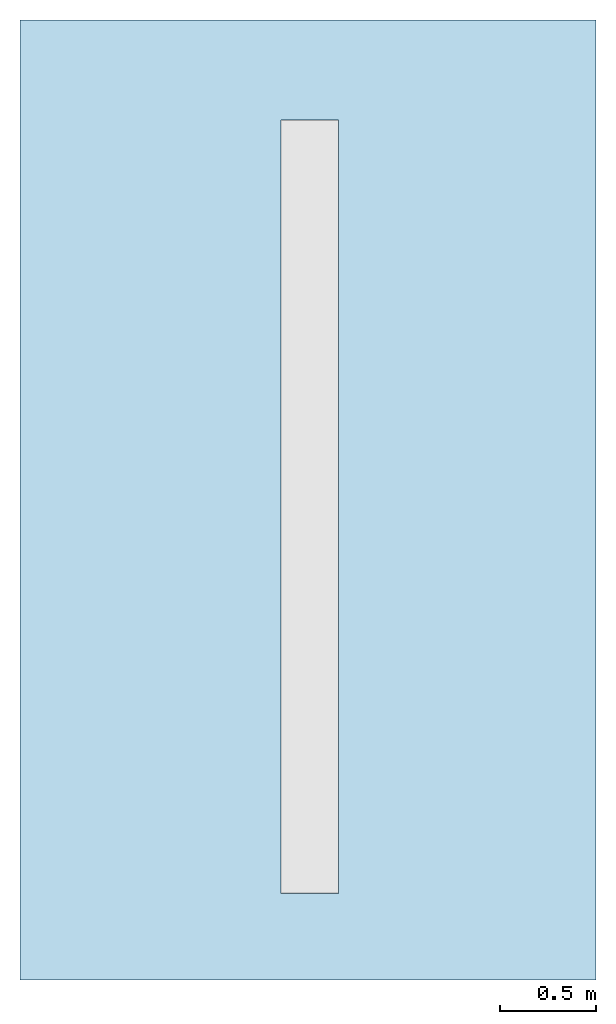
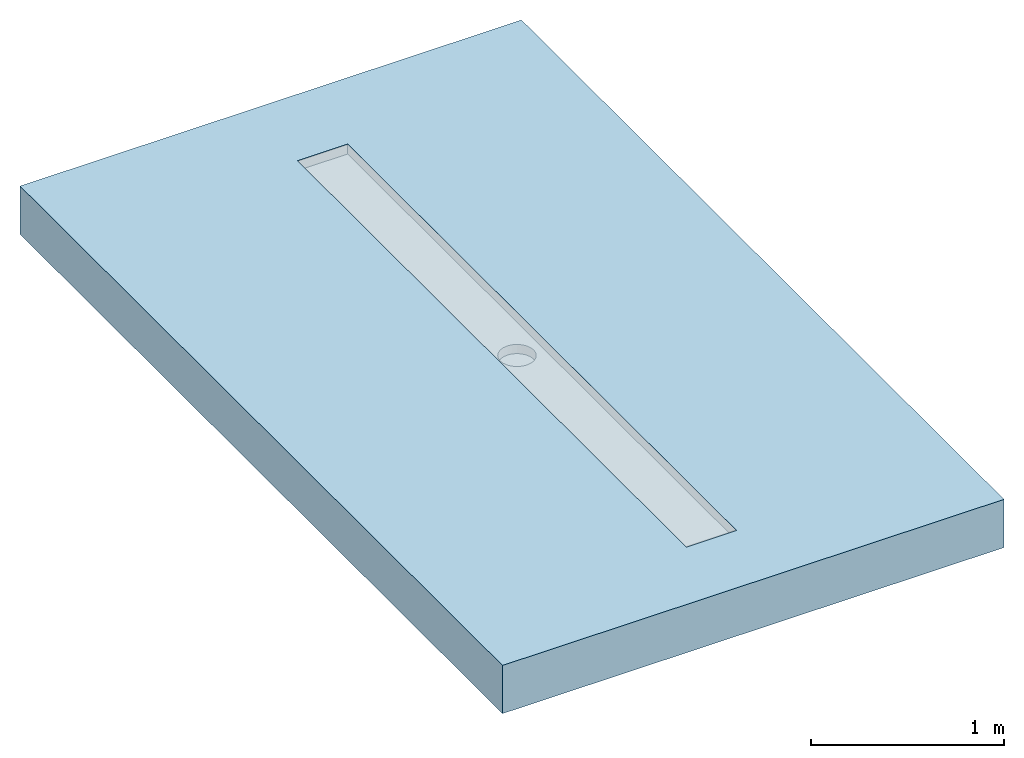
# One storey, incomplete: 1 slab, 1 opening.
"""IFC2X3 building model written with IfcOpenShell, lengths in millimetres."""

import ifcopenshell
import ifcopenshell.guid

model = None  # the IFC model being written
_history = None  # IfcOwnerHistory: only IFC2X3 demands one
_inside = {}  # id of a spatial element -> (the spatial element, [elements in it])
_under = {}  # id of a project, library or spatial element -> (it, [spatial elements below it])
_declared = {}  # id of a project -> (the project, [libraries it declares])
_typed = {}  # id of a type object -> (the type object, [elements of that type])
_made_of = {}  # id of a material, layer set ... -> (it, [elements and type objects made of it])


def new_model(schema):
    """Start an empty IFC model of exactly this schema.

    Asked for "IFC4X3", IfcOpenShell would pick the latest addendum, in which some entities
    have other attributes; the version numbers below select the first issue.
    IFC2X3 requires an IfcOwnerHistory on every rooted entity: one is made here for all.
    """
    global model, _history
    if schema == "IFC4X3":
        model = ifcopenshell.file(schema_version=(4, 3, 0, 0))
    else:
        model = ifcopenshell.file(schema=schema)
    _inside.clear()
    _under.clear()
    _declared.clear()
    _typed.clear()
    _made_of.clear()
    _history = None
    if model.schema == "IFC2X3":
        org = make("IfcOrganization", Name="unknown")
        user = make(
            "IfcPersonAndOrganization",
            ThePerson=make("IfcPerson", FamilyName="unknown"),
            TheOrganization=org,
        )
        app = make(
            "IfcApplication",
            ApplicationDeveloper=org,
            Version="unknown",
            ApplicationFullName="unknown",
            ApplicationIdentifier="unknown",
        )
        _history = make(
            "IfcOwnerHistory",
            OwningUser=user,
            OwningApplication=app,
            ChangeAction="ADDED",
            CreationDate=0,
        )
    return model


def make(cls, **values):
    """One entity of the class cls with the attributes given. An attribute that is None is left unset."""
    return model.create_entity(
        cls, **{name: value for name, value in values.items() if value is not None}
    )


def entity(cls, *values):
    """Any entity or typed value of the class cls, its attributes in the order of the schema. None: left unset."""
    e = model.create_entity(cls)
    for i, value in enumerate(values):
        if value is not None:
            e[i] = value
    return e


def rooted(cls, **values):
    """An entity with a GlobalId (a new one), such as an element, a storey or a relation."""
    return make(cls, GlobalId=ifcopenshell.guid.new(), OwnerHistory=_history, **values)


def si_unit(unit_type, name, prefix=None):
    """IfcSIUnit, for example si_unit("LENGTHUNIT", "METRE", prefix="MILLI")."""
    return make("IfcSIUnit", UnitType=unit_type, Prefix=prefix, Name=name)


def converted_unit(unit_type, name, factor, base, dimensions=None, offset=None):
    """IfcConversionBasedUnit, such as the inch: factor (a typed value) times the base unit."""
    return make(
        "IfcConversionBasedUnit"
        if offset is None
        else "IfcConversionBasedUnitWithOffset",
        ConversionOffset=offset,
        Dimensions=None
        if dimensions is None
        else entity("IfcDimensionalExponents", *dimensions),
        UnitType=unit_type,
        Name=name,
        ConversionFactor=make(
            "IfcMeasureWithUnit", ValueComponent=factor, UnitComponent=base
        ),
    )


def derived_unit(unit_type, elements):
    """IfcDerivedUnit: a product of units, each with its exponent."""
    return make(
        "IfcDerivedUnit",
        Elements=[
            make("IfcDerivedUnitElement", Unit=unit, Exponent=power)
            for unit, power in elements
        ],
        UnitType=unit_type,
    )


def assignment(units):
    """IfcUnitAssignment: the units of a project."""
    return None if units is None else make("IfcUnitAssignment", Units=units)


def point(xyz):
    """IfcCartesianPoint."""
    return None if xyz is None else make("IfcCartesianPoint", Coordinates=xyz)


def direction(xyz):
    """IfcDirection."""
    return None if xyz is None else make("IfcDirection", DirectionRatios=xyz)


def frame(location, z_axis=None, x_axis=None):
    """IfcAxis2Placement3D, a coordinate frame: its origin and axes. An axis left out is left unset."""
    return make(
        "IfcAxis2Placement3D",
        Location=point(location),
        Axis=direction(z_axis),
        RefDirection=direction(x_axis),
    )


def frame_2d(location, x_axis=None):
    """IfcAxis2Placement2D, a coordinate frame in the plane: its origin and x axis."""
    return make(
        "IfcAxis2Placement2D", Location=point(location), RefDirection=direction(x_axis)
    )


def origin():
    """The frame at (0, 0, 0) with its axes left unset."""
    return frame((0.0, 0.0, 0.0))


def place(relative_to, where):
    """IfcLocalPlacement: puts the frame where relative to a parent placement (None: the world)."""
    return make(
        "IfcLocalPlacement", PlacementRelTo=relative_to, RelativePlacement=where
    )


def context(
    kind, dimensions, precision=None, world=None, true_north=None, identifier=None
):
    """IfcGeometricRepresentationContext, for example the 3D "Model" context."""
    return make(
        "IfcGeometricRepresentationContext",
        ContextIdentifier=identifier,
        ContextType=kind,
        CoordinateSpaceDimension=dimensions,
        Precision=precision,
        WorldCoordinateSystem=world,
        TrueNorth=true_north,
    )


def subcontext(parent, identifier, kind, view, scale=None):
    """IfcGeometricRepresentationSubContext, for example "Body" below "Model"."""
    return make(
        "IfcGeometricRepresentationSubContext",
        ContextIdentifier=identifier,
        ContextType=kind,
        ParentContext=parent,
        TargetScale=scale,
        TargetView=view,
    )


def project(units=None, contexts=None):
    """IfcProject with its units and contexts."""
    return rooted(
        "IfcProject",
        Name="project",
        RepresentationContexts=contexts,
        UnitsInContext=assignment(units),
    )


def spatial(cls, under=None, at=None, **own):
    """A site, building, storey or space (cls), placed at a placement, below another one or the project."""
    s = rooted(cls, ObjectPlacement=at, **own)
    if under is not None:
        _under.setdefault(under.id(), (under, []))[1].append(s)
    return s


def profile(cls, at=None, kind="AREA", **sizes):
    """A parametric profile (cls). Its sizes go by their IFC names, for example OverallWidth=200.0."""
    return make(cls, ProfileType=kind, Position=at, **sizes)


def rectangle(**sizes):
    """IfcRectangleProfileDef."""
    return profile("IfcRectangleProfileDef", **sizes)


def extrude(swept, where, along, depth):
    """IfcExtrudedAreaSolid: the profile swept, set in the frame where, extruded along a direction by depth."""
    return make(
        "IfcExtrudedAreaSolid",
        SweptArea=swept,
        Position=where,
        ExtrudedDirection=direction(along),
        Depth=depth,
    )


def faces_of(points, faces, orient=None, outer=None):
    """IfcFace entities. A face is a list of loops; a loop is a list of indices into points, from 0.

    orient and outer hold one flag for each loop. By default every Orientation is true, the
    first loop of a face is its IfcFaceOuterBound and the others are IfcFaceBound.
    """
    made = []
    for i, loops in enumerate(faces):
        bounds = []
        for j, loop in enumerate(loops):
            is_outer = j == 0 if outer is None else outer[i][j]
            bounds.append(
                make(
                    "IfcFaceOuterBound" if is_outer else "IfcFaceBound",
                    Bound=make("IfcPolyLoop", Polygon=[points[k] for k in loop]),
                    Orientation=True if orient is None else orient[i][j],
                )
            )
        made.append(make("IfcFace", Bounds=bounds))
    return made


def faceted_brep(points, faces, orient=None, outer=None, voids=None):
    """IfcFacetedBrep: a solid bounded by flat faces; with voids (closed shells), ...WithVoids."""
    shared = [point(p) for p in points]
    hull = make("IfcClosedShell", CfsFaces=faces_of(shared, faces, orient, outer))
    if voids is None:
        return make("IfcFacetedBrep", Outer=hull)
    return make(
        "IfcFacetedBrepWithVoids",
        Outer=hull,
        Voids=[
            make(cls, CfsFaces=faces_of(shared, fs, o, b)) for cls, fs, o, b in voids
        ],
    )


def shape(context_of_items, identifier, shape_type, items):
    """IfcShapeRepresentation: the items that make up one representation, for example the "Body"."""
    return make(
        "IfcShapeRepresentation",
        ContextOfItems=context_of_items,
        RepresentationIdentifier=identifier,
        RepresentationType=shape_type,
        Items=items,
    )


def material(Name=None, Category=None):
    """IfcMaterial."""
    return make("IfcMaterial", Name=Name, Category=Category)


def layer(
    of_material, thickness, ventilated=None, Name=None, Category=None, Priority=None
):
    """IfcMaterialLayer: one layer of a wall or slab, of a material (None: an air gap)."""
    return make(
        "IfcMaterialLayer",
        Material=of_material,
        LayerThickness=thickness,
        IsVentilated=ventilated,
        Name=Name,
        Category=Category,
        Priority=Priority,
    )


def layer_set(layers, Name=None):
    """IfcMaterialLayerSet."""
    return make("IfcMaterialLayerSet", MaterialLayers=layers, LayerSetName=Name)


def layer_usage(for_layer_set, set_direction, sense, offset, extent=None):
    """IfcMaterialLayerSetUsage: how a layer set lies in its element."""
    return make(
        "IfcMaterialLayerSetUsage",
        ForLayerSet=for_layer_set,
        LayerSetDirection=set_direction,
        DirectionSense=sense,
        OffsetFromReferenceLine=offset,
        ReferenceExtent=extent,
    )


def made_of(thing, what):
    """Note that an element or type object is made of a material, layer set ...; save() writes the relation."""
    if what is not None:
        _made_of.setdefault(what.id(), (what, []))[1].append(thing)
    return thing


def element(
    cls,
    number,
    at=None,
    inside=None,
    cuts=None,
    type_object=None,
    material=None,
    context=None,
    identifier="Body",
    shape_type=None,
    held_by="IfcProductDefinitionShape",
    body=None,
    shapes=None,
    **own,
):
    """One element of the class cls, such as IfcWall. Its Tag is "e" and its number.

    at: its placement. inside: the storey or other place that contains it. cuts: it is an
    opening in that element (IfcRelVoidsElement). A single representation is given by context,
    identifier, shape_type and body (its items); several are given by shapes. held_by: the class
    of the entity that holds the representations. save() writes the other relations.
    """
    e = rooted(cls, Tag="e%d" % number, ObjectPlacement=at, **own)
    if body is not None:
        shapes = [shape(context, identifier, shape_type, body)]
    if shapes is not None:
        e.Representation = make(held_by, Representations=shapes)
    if inside is not None:
        _inside.setdefault(inside.id(), (inside, []))[1].append(e)
    if cuts is not None:
        rooted(
            "IfcRelVoidsElement", RelatingBuildingElement=cuts, RelatedOpeningElement=e
        )
    if type_object is not None:
        _typed.setdefault(type_object.id(), (type_object, []))[1].append(e)
    return made_of(e, material)


def aggregate(whole, parts):
    """IfcRelAggregates: a whole, such as a stair, and the parts it consists of."""
    return rooted("IfcRelAggregates", RelatingObject=whole, RelatedObjects=parts)


def save(model, path):
    """Write the relations noted so far, then the file.

    IfcRelAggregates (storeys below a building ...), IfcRelContainedInSpatialStructure (elements
    in a storey), IfcRelDefinesByType, IfcRelAssociatesMaterial and IfcRelDeclares: one each for
    every whole, place, type object, material and project.
    """
    for whole, parts in _under.values():
        aggregate(whole, parts)
    for where, things in _inside.values():
        rooted(
            "IfcRelContainedInSpatialStructure",
            RelatedElements=things,
            RelatingStructure=where,
        )
    for kind, things in _typed.values():
        rooted("IfcRelDefinesByType", RelatedObjects=things, RelatingType=kind)
    for what, things in _made_of.values():
        rooted("IfcRelAssociatesMaterial", RelatedObjects=things, RelatingMaterial=what)
    for by, libraries in _declared.values():
        rooted("IfcRelDeclares", RelatingContext=by, RelatedDefinitions=libraries)
    model.write(path)


model = new_model("IFC2X3")

# Units and contexts
model_context = context("Model", 3, precision=1e-05, world=origin(), true_north=direction((2.0, 6.12303176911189e-17, 1.0)))
context_of_model = context(None, 3, precision=1e-05, world=origin(), true_north=direction((2.0, 6.12303176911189e-17, 1.0)))
body_context = subcontext(model_context, "Body", "Model", "MODEL_VIEW")
ifc_project = project(units=[si_unit("LENGTHUNIT", "METRE", prefix="MILLI"), converted_unit("AREAUNIT", "SQUARE FOOT", entity("IfcRatioMeasure", 0.09290304), si_unit("AREAUNIT", "SQUARE_METRE"), dimensions=[2, 0, 0, 0, 0, 0, 0]), converted_unit("VOLUMEUNIT", "CUBIC FOOT", entity("IfcRatioMeasure", 0.028316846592), si_unit("VOLUMEUNIT", "CUBIC_METRE"), dimensions=[3, 0, 0, 0, 0, 0, 0]), converted_unit("PLANEANGLEUNIT", "DEGREE", entity("IfcRatioMeasure", 0.0174532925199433), si_unit("PLANEANGLEUNIT", "RADIAN"), dimensions=[0, 0, 0, 0, 0, 0, 0]), si_unit("MASSUNIT", "GRAM", prefix="KILO"), si_unit("TIMEUNIT", "SECOND"), si_unit("THERMODYNAMICTEMPERATUREUNIT", "KELVIN"), derived_unit("THERMALTRANSMITTANCEUNIT", [(si_unit("MASSUNIT", "GRAM", prefix="KILO"), 1), (si_unit("THERMODYNAMICTEMPERATUREUNIT", "KELVIN"), -1), (si_unit("TIMEUNIT", "SECOND"), -3)]), derived_unit("VOLUMETRICFLOWRATEUNIT", [(si_unit("LENGTHUNIT", "METRE"), 3), (si_unit("TIMEUNIT", "SECOND"), -1)]), si_unit("POWERUNIT", "WATT")], contexts=[model_context, context_of_model])

# Site, building, storey
site_placement = place(None, origin())
site = spatial("IfcSite", under=ifc_project, at=site_placement, Name="Default", CompositionType="ELEMENT")
building_placement = place(site_placement, origin())
building = spatial("IfcBuilding", under=site, at=building_placement, CompositionType="ELEMENT")
storey_placement = place(building_placement, origin())
storey = spatial("IfcBuildingStorey", under=building, at=storey_placement, Name="Level 1", CompositionType="ELEMENT", Elevation=0.0)

# Slab, opening
ifc_material = material(Name="Default Floor")
ifc_layer = layer(ifc_material, 304.8)
ifc_layer_set = layer_set([ifc_layer], Name="Floor:Generic - 12\"")
ifc_layer_usage = layer_usage(ifc_layer_set, "AXIS3", "POSITIVE", 0.0)
slab_placement = place(storey_placement, frame((-2592.42688678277, 381.838531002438, -304.8)))
slab = element("IfcSlab", 1, at=slab_placement, inside=storey, material=ifc_layer_usage, Name="Floor:Generic - 12\"", ObjectType="Floor:Generic - 12\"", PredefinedType="FLOOR", context=body_context, shape_type="SweptSolid", body=[
    extrude(rectangle(XDim=5000.0, YDim=3000.0, at=frame_2d((0.0, 0.0), x_axis=(0.0, -1.0))), frame((1500.0, 2500.0, 304.8), z_axis=(0.0, 0.0, -1.0), x_axis=(-1.0, 0.0, 0.0)), (0.0, 0.0, 1.0), 304.8),
])
opening_placement = place(slab_placement, frame((1359.54148537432, 449.777836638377, 184.151793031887)))
element("IfcOpeningElement", 2, at=opening_placement, cuts=slab, ObjectType="Recess", context=body_context, shape_type="Brep", body=[
    faceted_brep([(300.0, 0.0, 57.8482069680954), (300.0, 0.0, 120.648206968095), (0.0, 0.0, 120.648206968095), (0.0, 0.0, 57.8482069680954), (0.0, 4030.0, 57.8482069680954), (0.0, 4030.0, 120.648206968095), (300.0, 4030.0, 120.648206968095), (300.0, 4030.0, 57.8482069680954), (100.0, 1928.39745962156, 57.8482069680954), (124.118095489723, 1918.40741737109, 57.8482069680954), (79.2893218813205, 1944.28932188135, 57.8482069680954), (150.0, 1915.0, 57.8482069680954), (50.0, 2015.0, 57.8482069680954), (53.4074173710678, 1989.11809548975, 57.8482069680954), (63.397459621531, 1965.0, 57.8482069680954), (175.881904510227, 1918.40741737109, 57.8482069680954), (200.0, 1928.39745962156, 57.8482069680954), (220.710678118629, 1944.28932188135, 57.8482069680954), (236.602540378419, 1965.0, 57.8482069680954), (246.592582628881, 1989.11809548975, 57.8482069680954), (250.0, 2015.0, 57.8482069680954), (63.397459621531, 2065.0, 57.8482069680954), (53.4074173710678, 2040.88190451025, 57.8482069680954), (79.2893218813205, 2085.71067811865, 57.8482069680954), (100.0, 2101.60254037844, 57.8482069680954), (124.118095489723, 2111.59258262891, 57.8482069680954), (150.0, 2115.0, 57.8482069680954), (246.592582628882, 2040.88190451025, 57.8482069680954), (236.602540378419, 2065.0, 57.8482069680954), (200.0, 2101.60254037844, 57.8482069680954), (175.881904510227, 2111.59258262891, 57.8482069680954), (220.71067811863, 2085.71067811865, 57.8482069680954), (124.118095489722, 1918.40741737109, 0.0), (220.710678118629, 1944.28932188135, 0.0), (150.0, 1915.0, 0.0), (79.28932188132, 1944.28932188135, 0.0), (100.0, 1928.39745962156, 0.0), (63.397459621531, 1965.0, 0.0), (53.4074173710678, 1989.11809548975, 0.0), (124.118095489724, 2111.59258262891, 0.0), (175.881904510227, 1918.40741737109, 0.0), (200.0, 1928.39745962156, 0.0), (246.592582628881, 1989.11809548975, 0.0), (236.602540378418, 1965.0, 0.0), (250.0, 2015.0, 0.0), (246.592582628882, 2040.88190451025, 0.0), (236.602540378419, 2065.0, 0.0), (53.4074173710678, 2040.88190451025, 0.0), (79.2893218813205, 2085.71067811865, 0.0), (63.3974596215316, 2065.0, 0.0), (100.0, 2101.60254037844, 0.0), (220.71067811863, 2085.71067811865, 0.0), (200.0, 2101.60254037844, 0.0), (150.0, 2115.0, 0.0), (175.881904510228, 2111.59258262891, 0.0), (50.0, 2015.0, 0.0)], [[[0, 1, 2]], [[2, 3, 0]], [[4, 5, 6]], [[6, 7, 4]], [[2, 1, 5]], [[6, 5, 1]], [[3, 2, 5]], [[5, 4, 3]], [[3, 8, 9]], [[8, 3, 10]], [[3, 9, 11]], [[12, 13, 3]], [[14, 10, 3]], [[13, 14, 3]], [[3, 4, 12]], [[0, 11, 15]], [[11, 0, 3]], [[0, 15, 16]], [[16, 17, 0]], [[18, 19, 0]], [[17, 18, 0]], [[0, 19, 20]], [[21, 22, 4]], [[23, 21, 4]], [[24, 4, 25]], [[4, 24, 23]], [[26, 25, 4]], [[4, 7, 26]], [[22, 12, 4]], [[27, 28, 7]], [[20, 27, 7]], [[29, 30, 7]], [[31, 7, 28]], [[7, 31, 29]], [[30, 26, 7]], [[20, 7, 0]], [[1, 0, 7]], [[7, 6, 1]], [[32, 33, 34]], [[35, 32, 36]], [[35, 37, 38]], [[33, 32, 39]], [[39, 32, 35]], [[40, 33, 41]], [[40, 34, 33]], [[33, 42, 43]], [[44, 42, 45]], [[42, 33, 46]], [[35, 38, 47]], [[35, 47, 48]], [[48, 47, 49]], [[48, 50, 39]], [[39, 35, 48]], [[33, 39, 51]], [[51, 46, 33]], [[45, 42, 46]], [[52, 53, 54]], [[52, 51, 39]], [[52, 39, 53]], [[55, 47, 38]], [[45, 27, 44]], [[46, 28, 45]], [[29, 51, 52]], [[46, 51, 31]], [[30, 52, 54]], [[45, 28, 27]], [[27, 20, 44]], [[30, 29, 52]], [[31, 51, 29]], [[31, 28, 46]], [[26, 30, 54]], [[54, 53, 26]], [[24, 50, 48]], [[21, 49, 47]], [[48, 49, 23]], [[22, 47, 55]], [[39, 24, 25]], [[39, 50, 24]], [[25, 26, 39]], [[48, 23, 24]], [[49, 21, 23]], [[22, 21, 47]], [[55, 12, 22]], [[39, 26, 53]], [[38, 13, 55]], [[37, 14, 38]], [[8, 35, 36]], [[37, 35, 10]], [[9, 36, 32]], [[38, 14, 13]], [[13, 12, 55]], [[9, 8, 36]], [[10, 35, 8]], [[10, 14, 37]], [[11, 9, 32]], [[32, 34, 11]], [[15, 40, 41]], [[33, 16, 41]], [[18, 43, 42]], [[33, 43, 17]], [[19, 42, 44]], [[40, 15, 34]], [[41, 16, 15]], [[34, 15, 11]], [[33, 17, 16]], [[43, 18, 17]], [[19, 18, 42]], [[44, 20, 19]]]),
])

save(model, "model.ifc")
